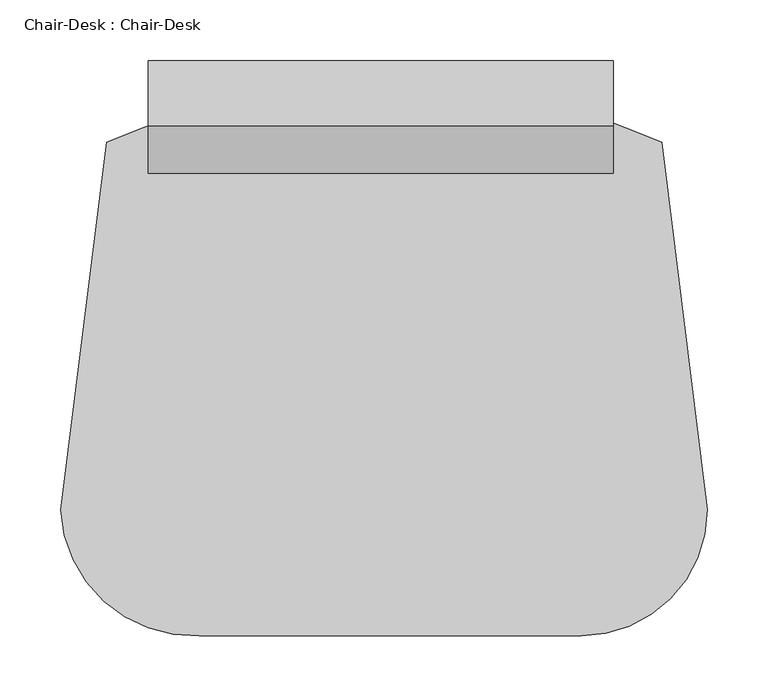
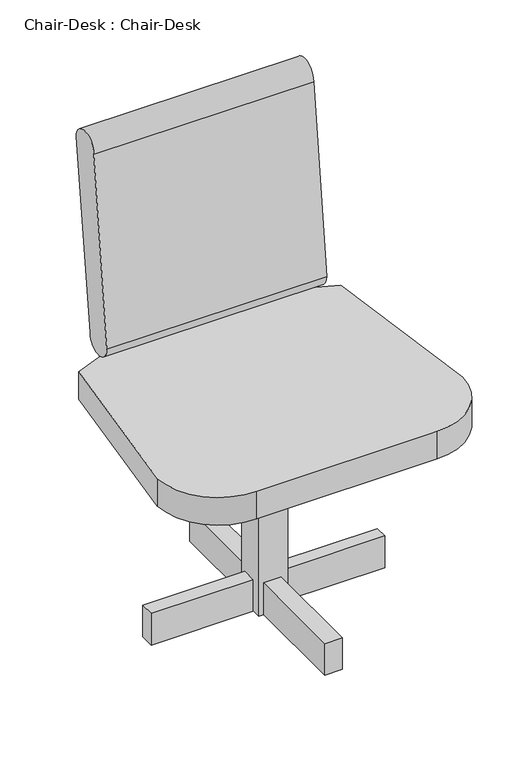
"""IFC4 building model written with IfcOpenShell, lengths in millimetres: furniture geometry, Chair-Desk : Chair-Desk."""

import ifcopenshell
import ifcopenshell.guid

model = None  # the IFC model being written
_history = None  # IfcOwnerHistory: only IFC2X3 demands one
_inside = {}  # id of a spatial element -> (the spatial element, [elements in it])
_under = {}  # id of a project, library or spatial element -> (it, [spatial elements below it])
_declared = {}  # id of a project -> (the project, [libraries it declares])
_typed = {}  # id of a type object -> (the type object, [elements of that type])
_made_of = {}  # id of a material, layer set ... -> (it, [elements and type objects made of it])


def new_model(schema):
    """Start an empty IFC model of exactly this schema.

    Asked for "IFC4X3", IfcOpenShell would pick the latest addendum, in which some entities
    have other attributes; the version numbers below select the first issue.
    IFC2X3 requires an IfcOwnerHistory on every rooted entity: one is made here for all.
    """
    global model, _history
    if schema == "IFC4X3":
        model = ifcopenshell.file(schema_version=(4, 3, 0, 0))
    else:
        model = ifcopenshell.file(schema=schema)
    _inside.clear()
    _under.clear()
    _declared.clear()
    _typed.clear()
    _made_of.clear()
    _history = None
    if model.schema == "IFC2X3":
        org = make("IfcOrganization", Name="unknown")
        user = make(
            "IfcPersonAndOrganization",
            ThePerson=make("IfcPerson", FamilyName="unknown"),
            TheOrganization=org,
        )
        app = make(
            "IfcApplication",
            ApplicationDeveloper=org,
            Version="unknown",
            ApplicationFullName="unknown",
            ApplicationIdentifier="unknown",
        )
        _history = make(
            "IfcOwnerHistory",
            OwningUser=user,
            OwningApplication=app,
            ChangeAction="ADDED",
            CreationDate=0,
        )
    return model


def make(cls, **values):
    """One entity of the class cls with the attributes given. An attribute that is None is left unset."""
    return model.create_entity(
        cls, **{name: value for name, value in values.items() if value is not None}
    )


def rooted(cls, **values):
    """An entity with a GlobalId (a new one), such as an element, a storey or a relation."""
    return make(cls, GlobalId=ifcopenshell.guid.new(), OwnerHistory=_history, **values)


def si_unit(unit_type, name, prefix=None):
    """IfcSIUnit, for example si_unit("LENGTHUNIT", "METRE", prefix="MILLI")."""
    return make("IfcSIUnit", UnitType=unit_type, Prefix=prefix, Name=name)


def assignment(units):
    """IfcUnitAssignment: the units of a project."""
    return None if units is None else make("IfcUnitAssignment", Units=units)


def point(xyz):
    """IfcCartesianPoint."""
    return None if xyz is None else make("IfcCartesianPoint", Coordinates=xyz)


def direction(xyz):
    """IfcDirection."""
    return None if xyz is None else make("IfcDirection", DirectionRatios=xyz)


def frame(location, z_axis=None, x_axis=None):
    """IfcAxis2Placement3D, a coordinate frame: its origin and axes. An axis left out is left unset."""
    return make(
        "IfcAxis2Placement3D",
        Location=point(location),
        Axis=direction(z_axis),
        RefDirection=direction(x_axis),
    )


def frame_2d(location, x_axis=None):
    """IfcAxis2Placement2D, a coordinate frame in the plane: its origin and x axis."""
    return make(
        "IfcAxis2Placement2D", Location=point(location), RefDirection=direction(x_axis)
    )


def origin():
    """The frame at (0, 0, 0) with its axes left unset."""
    return frame((0.0, 0.0, 0.0))


def origin_with_axes():
    """The frame at (0, 0, 0) with the z axis (0, 0, 1) and the x axis (1, 0, 0) written out."""
    return frame((0.0, 0.0, 0.0), z_axis=(0.0, 0.0, 1.0), x_axis=(1.0, 0.0, 0.0))


def place(relative_to, where):
    """IfcLocalPlacement: puts the frame where relative to a parent placement (None: the world)."""
    return make(
        "IfcLocalPlacement", PlacementRelTo=relative_to, RelativePlacement=where
    )


def context(
    kind, dimensions, precision=None, world=None, true_north=None, identifier=None
):
    """IfcGeometricRepresentationContext, for example the 3D "Model" context."""
    return make(
        "IfcGeometricRepresentationContext",
        ContextIdentifier=identifier,
        ContextType=kind,
        CoordinateSpaceDimension=dimensions,
        Precision=precision,
        WorldCoordinateSystem=world,
        TrueNorth=true_north,
    )


def project(units=None, contexts=None):
    """IfcProject with its units and contexts."""
    return rooted(
        "IfcProject",
        Name="project",
        RepresentationContexts=contexts,
        UnitsInContext=assignment(units),
    )


def spatial(cls, under=None, at=None, **own):
    """A site, building, storey or space (cls), placed at a placement, below another one or the project."""
    s = rooted(cls, ObjectPlacement=at, **own)
    if under is not None:
        _under.setdefault(under.id(), (under, []))[1].append(s)
    return s


def polyline(points):
    """IfcPolyline through the points."""
    return make("IfcPolyline", Points=[point(p) for p in points])


def circle_curve(where, radius):
    """IfcCircle in the frame where."""
    return make("IfcCircle", Position=where, Radius=radius)


def trimmed(basis, trim1, trim2, sense, master):
    """IfcTrimmedCurve: the piece of a basis curve between two trims."""
    return make(
        "IfcTrimmedCurve",
        BasisCurve=basis,
        Trim1=trim1,
        Trim2=trim2,
        SenseAgreement=sense,
        MasterRepresentation=master,
    )


def segment(curve, same_sense, transition):
    """IfcCompositeCurveSegment."""
    return make(
        "IfcCompositeCurveSegment",
        Transition=transition,
        SameSense=same_sense,
        ParentCurve=curve,
    )


def composite_curve(segments, self_intersect=None):
    """IfcCompositeCurve: segments joined end to end."""
    return make("IfcCompositeCurve", Segments=segments, SelfIntersect=self_intersect)


def outline(outer, holes=None, kind="AREA"):
    """IfcArbitraryClosedProfileDef: a profile drawn as a closed curve; with holes, ...WithVoids."""
    if holes is None:
        return make("IfcArbitraryClosedProfileDef", ProfileType=kind, OuterCurve=outer)
    return make(
        "IfcArbitraryProfileDefWithVoids",
        ProfileType=kind,
        OuterCurve=outer,
        InnerCurves=holes,
    )


def extrude(swept, where, along, depth):
    """IfcExtrudedAreaSolid: the profile swept, set in the frame where, extruded along a direction by depth."""
    return make(
        "IfcExtrudedAreaSolid",
        SweptArea=swept,
        Position=where,
        ExtrudedDirection=direction(along),
        Depth=depth,
    )


def shape(context_of_items, identifier, shape_type, items):
    """IfcShapeRepresentation: the items that make up one representation, for example the "Body"."""
    return make(
        "IfcShapeRepresentation",
        ContextOfItems=context_of_items,
        RepresentationIdentifier=identifier,
        RepresentationType=shape_type,
        Items=items,
    )


def source(mapping_origin, context_of_items, identifier, shape_type, items):
    """IfcRepresentationMap: a shape defined once, which mapped items show again and again."""
    return make(
        "IfcRepresentationMap",
        MappingOrigin=mapping_origin,
        MappedRepresentation=shape(context_of_items, identifier, shape_type, items),
    )


def transform(
    local_origin,
    x_axis=None,
    y_axis=None,
    z_axis=None,
    scale=None,
    scale2=None,
    scale3=None,
    uniform=True,
):
    """IfcCartesianTransformationOperator3D, or its non-uniform kind. x_axis, y_axis, z_axis: its Axis1, 2, 3."""
    if uniform:
        return make(
            "IfcCartesianTransformationOperator3D",
            Axis1=direction(x_axis),
            Axis2=direction(y_axis),
            LocalOrigin=point(local_origin),
            Scale=scale,
            Axis3=direction(z_axis),
        )
    return make(
        "IfcCartesianTransformationOperator3DnonUniform",
        Axis1=direction(x_axis),
        Axis2=direction(y_axis),
        LocalOrigin=point(local_origin),
        Scale=scale,
        Axis3=direction(z_axis),
        Scale2=scale2,
        Scale3=scale3,
    )


def mapped(mapping_source, mapping_target):
    """IfcMappedItem: shows the shape of a source again, moved by a transform."""
    return make(
        "IfcMappedItem", MappingSource=mapping_source, MappingTarget=mapping_target
    )


def made_of(thing, what):
    """Note that an element or type object is made of a material, layer set ...; save() writes the relation."""
    if what is not None:
        _made_of.setdefault(what.id(), (what, []))[1].append(thing)
    return thing


def element(
    cls,
    number,
    at=None,
    inside=None,
    cuts=None,
    type_object=None,
    material=None,
    context=None,
    identifier="Body",
    shape_type=None,
    held_by="IfcProductDefinitionShape",
    body=None,
    shapes=None,
    **own,
):
    """One element of the class cls, such as IfcWall. Its Tag is "e" and its number.

    at: its placement. inside: the storey or other place that contains it. cuts: it is an
    opening in that element (IfcRelVoidsElement). A single representation is given by context,
    identifier, shape_type and body (its items); several are given by shapes. held_by: the class
    of the entity that holds the representations. save() writes the other relations.
    """
    e = rooted(cls, Tag="e%d" % number, ObjectPlacement=at, **own)
    if body is not None:
        shapes = [shape(context, identifier, shape_type, body)]
    if shapes is not None:
        e.Representation = make(held_by, Representations=shapes)
    if inside is not None:
        _inside.setdefault(inside.id(), (inside, []))[1].append(e)
    if cuts is not None:
        rooted(
            "IfcRelVoidsElement", RelatingBuildingElement=cuts, RelatedOpeningElement=e
        )
    if type_object is not None:
        _typed.setdefault(type_object.id(), (type_object, []))[1].append(e)
    return made_of(e, material)


def aggregate(whole, parts):
    """IfcRelAggregates: a whole, such as a stair, and the parts it consists of."""
    return rooted("IfcRelAggregates", RelatingObject=whole, RelatedObjects=parts)


def save(model, path):
    """Write the relations noted so far, then the file.

    IfcRelAggregates (storeys below a building ...), IfcRelContainedInSpatialStructure (elements
    in a storey), IfcRelDefinesByType, IfcRelAssociatesMaterial and IfcRelDeclares: one each for
    every whole, place, type object, material and project.
    """
    for whole, parts in _under.values():
        aggregate(whole, parts)
    for where, things in _inside.values():
        rooted(
            "IfcRelContainedInSpatialStructure",
            RelatedElements=things,
            RelatingStructure=where,
        )
    for kind, things in _typed.values():
        rooted("IfcRelDefinesByType", RelatedObjects=things, RelatingType=kind)
    for what, things in _made_of.values():
        rooted("IfcRelAssociatesMaterial", RelatedObjects=things, RelatingMaterial=what)
    for by, libraries in _declared.values():
        rooted("IfcRelDeclares", RelatingContext=by, RelatedDefinitions=libraries)
    model.write(path)


def chair_desk_chair_desk_1723cfae(model_context):
    return source(origin(), model_context, "Body", "SweptSolid", [
        extrude(outline(polyline([(-203.6618182, -175.0290909), (-203.6618182, -150.0462968), (-25.8618182, -150.0462968), (-25.8618182, -175.0290909), (-203.6618182, -175.0290909)])), origin_with_axes(), (0.0, 0.0, 1.0), 58.5040426),
        extrude(outline(polyline([(204.1236364, -175.0290909), (26.7854545, -175.0290909), (26.7854545, -152.4), (204.1236364, -152.4), (204.1236364, -175.0290909)])), origin_with_axes(), (0.0, 0.0, 1.0), 58.5040426),
        extrude(outline(polyline([(-16.1636364, -188.8836364), (14.3163636, -188.8836364), (14.3163636, -374.9517514), (-16.1636364, -374.9517514), (-16.1636364, -188.8836364)])), origin_with_axes(), (0.0, 0.0, 1.0), 58.5040426),
        extrude(outline(polyline([(14.3163636, -136.2363636), (-16.1636364, -136.2363636), (-16.1636364, 33.2509091), (14.3163636, 33.2509091), (14.3163636, -136.2363636)])), origin_with_axes(), (0.0, 0.0, 1.0), 58.5040426),
        extrude(outline(polyline([(26.3236364, -190.2690909), (-24.4763636, -190.2690909), (-24.4763636, -139.4690909), (26.3236364, -139.4690909), (26.3236364, -190.2690909)])), origin_with_axes(), (0.0, 0.0, 1.0), 355.6),
        extrude(outline(composite_curve([segment(trimmed(circle_curve(frame_2d((40.4206181, 787.4)), 26.7884929), [point((13.6321252, 787.4))], [point((67.209111, 787.4))], False, "CARTESIAN"), True, "CONTINUOUS"), segment(polyline([(67.209111, 787.4), (25.4, 451.3880753)]), True, "CONTINUOUS"), segment(trimmed(circle_curve(frame_2d((-0.0761963, 451.3880753)), 25.4761963), [point((25.4, 451.3880753))], [point((-25.5523927, 451.3880753))], False, "CARTESIAN"), True, "CONTINUOUS"), segment(polyline([(-25.5523927, 451.3880753), (13.6321252, 787.4)]), True, "CONTINUOUS")], self_intersect=False)), frame((-194.3643056, 0.0, 0.0), z_axis=(1.0, 0.0, 0.0), x_axis=(0.0, 1.0, 0.0)), (0.0, 0.0, 1.0), 383.2768056),
        extrude(outline(composite_curve([segment(polyline([(-266.4057871, -302.4462968), (-228.6, 0.0)]), True, "CONTINUOUS"), segment(trimmed(circle_curve(frame_2d((0.0, -446.8941036)), 501.9684252), [point((-228.6, 0.0))], [point((228.6, 0.0))], False, "CARTESIAN"), True, "CONTINUOUS"), segment(polyline([(228.6, 0.0), (266.2067116, -302.4462968)]), True, "CONTINUOUS"), segment(trimmed(circle_curve(frame_2d((162.2530084, -302.4462968)), 103.9537032), [point((266.2067116, -302.4462968))], [point((162.2530084, -406.4))], False, "CARTESIAN"), True, "CONTINUOUS"), segment(polyline([(162.2530084, -406.4), (-152.4, -406.4)]), True, "CONTINUOUS"), segment(trimmed(circle_curve(frame_2d((-157.1362322, -297.1024212)), 109.4001491), [point((-152.4, -406.4))], [point((-266.4057871, -302.4462968))], False, "CARTESIAN"), True, "CONTINUOUS")], self_intersect=False)), frame((0.0, 0.0, 355.6), z_axis=(0.0, 0.0, 1.0), x_axis=(1.0, 0.0, 0.0)), (0.0, 0.0, 1.0), 50.8),
    ])


if __name__ == "__main__":
    model = new_model("IFC4")
    model_context = context("Model", 3, world=origin())
    ifc_project = project(units=[si_unit("LENGTHUNIT", "METRE", prefix="MILLI")], contexts=[model_context])
    site = spatial("IfcSite", under=ifc_project)
    building = spatial("IfcBuilding", under=site)
    placement = place(None, origin())
    chair_desk_chair_desk_shape = chair_desk_chair_desk_1723cfae(model_context)
    element("IfcFurniture", 1, ObjectType="Chair-Desk : Chair-Desk", at=placement, inside=building, context=model_context, shape_type="MappedRepresentation", body=[
        mapped(chair_desk_chair_desk_shape, transform((0.0, 0.0, 0.0), x_axis=(1.0, 0.0, 0.0), y_axis=(0.0, 1.0, 0.0), z_axis=(0.0, 0.0, 1.0))),
    ])
    save(model, "model.ifc")
